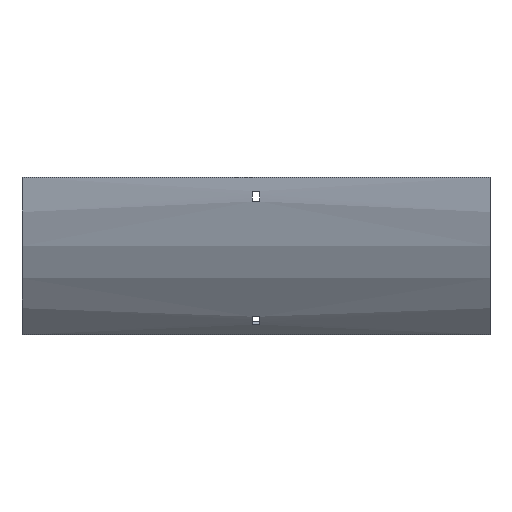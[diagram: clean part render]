
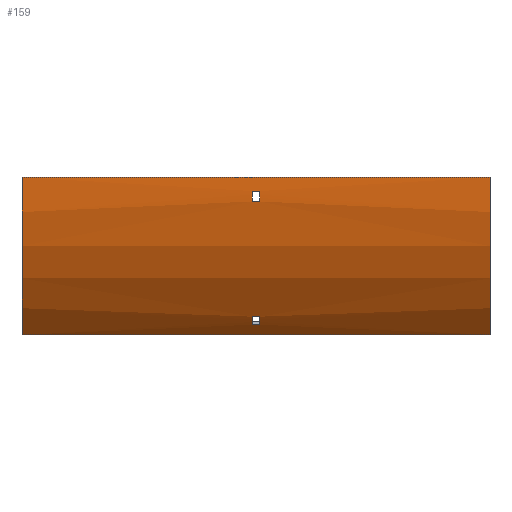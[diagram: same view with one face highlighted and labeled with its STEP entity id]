
A CAD part, front view. The second image highlights one B-rep face of the part: STEP entity #159.
In plain terms, the highlighted cylindrical face has radius 192.5 mm (diameter 385 mm), a partial arc.
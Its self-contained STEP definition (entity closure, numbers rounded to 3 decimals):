
#11 = CIRCLE ( 'NONE', #747, 192.5 ) ;
#13 = VERTEX_POINT ( 'NONE', #715 ) ;
#25 = CARTESIAN_POINT ( 'NONE',  ( -3.25, -92.126, -12. ) ) ;
#32 = CARTESIAN_POINT ( 'NONE',  ( -3.25, -44.339, -127.368 ) ) ;
#34 = VECTOR ( 'NONE', #120, 1000. ) ;
#75 = EDGE_LOOP ( 'NONE', ( #111, #529, #1619, #905 ) ) ;
#76 = EDGE_LOOP ( 'NONE', ( #302, #1595, #130, #898 ) ) ;
#111 = ORIENTED_EDGE ( 'NONE', *, *, #1137, .T. ) ;
#113 = LINE ( 'NONE', #374, #34 ) ;
#120 = DIRECTION ( 'NONE',  ( -1., 0., 0. ) ) ;
#123 = DIRECTION ( 'NONE',  ( 1., 0., 0. ) ) ;
#130 = ORIENTED_EDGE ( 'NONE', *, *, #920, .F. ) ;
#140 = CARTESIAN_POINT ( 'NONE',  ( 202., -44.339, -127.368 ) ) ;
#145 = DIRECTION ( 'NONE',  ( 1., 0., 0. ) ) ;
#147 = VECTOR ( 'NONE', #1066, 1000. ) ;
#153 = CIRCLE ( 'NONE', #527, 192.5 ) ;
#159 = ADVANCED_FACE ( 'NONE', ( #627, #647, #1281 ), #1274, .T. ) ;
#160 = DIRECTION ( 'NONE',  ( 0., 0., 1. ) ) ;
#172 = DIRECTION ( 'NONE',  ( 0., 0., -1. ) ) ;
#179 = DIRECTION ( 'NONE',  ( -1., 0., 0. ) ) ;
#199 = EDGE_CURVE ( 'NONE', #1321, #1110, #1167, .T. ) ;
#221 = DIRECTION ( 'NONE',  ( 0., 0., 1. ) ) ;
#252 = CARTESIAN_POINT ( 'NONE',  ( 202., -36.118, -136.118 ) ) ;
#257 = CARTESIAN_POINT ( 'NONE',  ( 3.25, -50.155, -120.456 ) ) ;
#264 = DIRECTION ( 'NONE',  ( -1., 0., 0. ) ) ;
#273 = CARTESIAN_POINT ( 'NONE',  ( 202., -91.351, -21. ) ) ;
#282 = VECTOR ( 'NONE', #1592, 1000. ) ;
#283 = EDGE_CURVE ( 'NONE', #1123, #1005, #153, .T. ) ;
#289 = CARTESIAN_POINT ( 'NONE',  ( -3.25, 100., 0. ) ) ;
#302 = ORIENTED_EDGE ( 'NONE', *, *, #199, .F. ) ;
#313 = VERTEX_POINT ( 'NONE', #955 ) ;
#355 = CARTESIAN_POINT ( 'NONE',  ( -3.25, -91.351, -21. ) ) ;
#363 = CARTESIAN_POINT ( 'NONE',  ( -202., -92.5, 0. ) ) ;
#366 = CARTESIAN_POINT ( 'NONE',  ( 3.25, -91.351, -21. ) ) ;
#368 = DIRECTION ( 'NONE',  ( 0., 0., 1. ) ) ;
#374 = CARTESIAN_POINT ( 'NONE',  ( 202., -92.5, 0. ) ) ;
#404 = DIRECTION ( 'NONE',  ( 1., 0., 0. ) ) ;
#437 = CARTESIAN_POINT ( 'NONE',  ( 202., 100., 0. ) ) ;
#442 = AXIS2_PLACEMENT_3D ( 'NONE', #1176, #1170, #368 ) ;
#497 = CIRCLE ( 'NONE', #543, 192.5 ) ;
#499 = DIRECTION ( 'NONE',  ( 0., 0., -1. ) ) ;
#521 = CIRCLE ( 'NONE', #1376, 192.5 ) ;
#527 = AXIS2_PLACEMENT_3D ( 'NONE', #437, #1618, #172 ) ;
#529 = ORIENTED_EDGE ( 'NONE', *, *, #853, .F. ) ;
#531 = LINE ( 'NONE', #1603, #1037 ) ;
#543 = AXIS2_PLACEMENT_3D ( 'NONE', #863, #179, #221 ) ;
#544 = DIRECTION ( 'NONE',  ( 1., 0., 0. ) ) ;
#598 = CARTESIAN_POINT ( 'NONE',  ( 3.25, -44.339, -127.368 ) ) ;
#627 = FACE_OUTER_BOUND ( 'NONE', #75, .T. ) ;
#644 = LINE ( 'NONE', #1324, #147 ) ;
#647 = FACE_BOUND ( 'NONE', #1064, .T. ) ;
#651 = AXIS2_PLACEMENT_3D ( 'NONE', #1180, #544, #939 ) ;
#662 = LINE ( 'NONE', #273, #282 ) ;
#711 = VERTEX_POINT ( 'NONE', #25 ) ;
#714 = CIRCLE ( 'NONE', #651, 192.5 ) ;
#715 = CARTESIAN_POINT ( 'NONE',  ( -202., -36.118, -136.118 ) ) ;
#720 = CARTESIAN_POINT ( 'NONE',  ( 202., -36.118, -136.118 ) ) ;
#747 = AXIS2_PLACEMENT_3D ( 'NONE', #289, #264, #160 ) ;
#777 = EDGE_CURVE ( 'NONE', #711, #313, #531, .T. ) ;
#841 = VERTEX_POINT ( 'NONE', #598 ) ;
#853 = EDGE_CURVE ( 'NONE', #1005, #13, #1495, .T. ) ;
#854 = ORIENTED_EDGE ( 'NONE', *, *, #1559, .T. ) ;
#863 = CARTESIAN_POINT ( 'NONE',  ( 3.25, 100., 0. ) ) ;
#865 = AXIS2_PLACEMENT_3D ( 'NONE', #1430, #123, #499 ) ;
#884 = VECTOR ( 'NONE', #145, 1000. ) ;
#898 = ORIENTED_EDGE ( 'NONE', *, *, #1152, .F. ) ;
#905 = ORIENTED_EDGE ( 'NONE', *, *, #1000, .T. ) ;
#908 = CARTESIAN_POINT ( 'NONE',  ( -202., 100., 0. ) ) ;
#920 = EDGE_CURVE ( 'NONE', #841, #1452, #497, .T. ) ;
#939 = DIRECTION ( 'NONE',  ( 0., 0., -1. ) ) ;
#955 = CARTESIAN_POINT ( 'NONE',  ( 3.25, -92.126, -12. ) ) ;
#1000 = EDGE_CURVE ( 'NONE', #1123, #1409, #113, .T. ) ;
#1005 = VERTEX_POINT ( 'NONE', #252 ) ;
#1016 = VECTOR ( 'NONE', #1503, 1000. ) ;
#1037 = VECTOR ( 'NONE', #1050, 1000. ) ;
#1050 = DIRECTION ( 'NONE',  ( 1., 0., 0. ) ) ;
#1064 = EDGE_LOOP ( 'NONE', ( #1328, #854, #1348, #1474 ) ) ;
#1066 = DIRECTION ( 'NONE',  ( -1., 0., 0. ) ) ;
#1074 = VERTEX_POINT ( 'NONE', #366 ) ;
#1075 = CARTESIAN_POINT ( 'NONE',  ( -3.25, -50.155, -120.456 ) ) ;
#1110 = VERTEX_POINT ( 'NONE', #32 ) ;
#1123 = VERTEX_POINT ( 'NONE', #1577 ) ;
#1125 = EDGE_CURVE ( 'NONE', #1074, #1486, #662, .T. ) ;
#1137 = EDGE_CURVE ( 'NONE', #1409, #13, #521, .T. ) ;
#1144 = EDGE_CURVE ( 'NONE', #313, #1074, #714, .T. ) ;
#1152 = EDGE_CURVE ( 'NONE', #1110, #841, #1471, .T. ) ;
#1162 = EDGE_CURVE ( 'NONE', #1452, #1321, #644, .T. ) ;
#1167 = CIRCLE ( 'NONE', #865, 192.5 ) ;
#1170 = DIRECTION ( 'NONE',  ( -1., 0., 0. ) ) ;
#1176 = CARTESIAN_POINT ( 'NONE',  ( 202., 100., 0. ) ) ;
#1180 = CARTESIAN_POINT ( 'NONE',  ( 3.25, 100., 0. ) ) ;
#1274 = CYLINDRICAL_SURFACE ( 'NONE', #442, 192.5 ) ;
#1281 = FACE_BOUND ( 'NONE', #76, .T. ) ;
#1321 = VERTEX_POINT ( 'NONE', #1075 ) ;
#1324 = CARTESIAN_POINT ( 'NONE',  ( 202., -50.155, -120.456 ) ) ;
#1328 = ORIENTED_EDGE ( 'NONE', *, *, #1125, .T. ) ;
#1348 = ORIENTED_EDGE ( 'NONE', *, *, #777, .T. ) ;
#1376 = AXIS2_PLACEMENT_3D ( 'NONE', #908, #404, #1434 ) ;
#1409 = VERTEX_POINT ( 'NONE', #363 ) ;
#1430 = CARTESIAN_POINT ( 'NONE',  ( -3.25, 100., 0. ) ) ;
#1434 = DIRECTION ( 'NONE',  ( 0., 0., -1. ) ) ;
#1452 = VERTEX_POINT ( 'NONE', #257 ) ;
#1471 = LINE ( 'NONE', #140, #884 ) ;
#1474 = ORIENTED_EDGE ( 'NONE', *, *, #1144, .T. ) ;
#1486 = VERTEX_POINT ( 'NONE', #355 ) ;
#1495 = LINE ( 'NONE', #720, #1016 ) ;
#1503 = DIRECTION ( 'NONE',  ( -1., 0., 0. ) ) ;
#1559 = EDGE_CURVE ( 'NONE', #1486, #711, #11, .T. ) ;
#1577 = CARTESIAN_POINT ( 'NONE',  ( 202., -92.5, 0. ) ) ;
#1592 = DIRECTION ( 'NONE',  ( -1., 0., 0. ) ) ;
#1595 = ORIENTED_EDGE ( 'NONE', *, *, #1162, .F. ) ;
#1603 = CARTESIAN_POINT ( 'NONE',  ( 202., -92.126, -12. ) ) ;
#1618 = DIRECTION ( 'NONE',  ( 1., 0., 0. ) ) ;
#1619 = ORIENTED_EDGE ( 'NONE', *, *, #283, .F. ) ;
